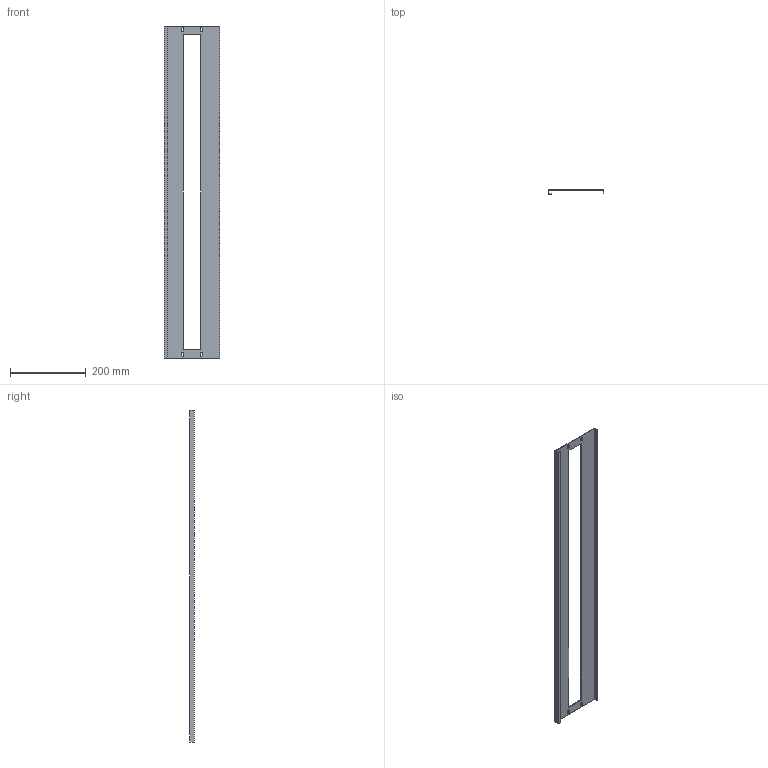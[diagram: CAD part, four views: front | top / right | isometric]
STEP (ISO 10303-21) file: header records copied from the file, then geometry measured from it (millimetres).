
FILE_DESCRIPTION (( 'STEP AP214' ), '1' );
FILE_NAME ('FO-00-PVM-015-100 Ïëàñòðîí äëÿ ìîäóëüíûõ óñòðîéñòâ 150õ1000.STEP', '2025-08-26T07:58:32', ( '' ), ( '' ), 'SwSTEP 2.0', 'SolidWorks 2023', '' );
FILE_SCHEMA (( 'AUTOMOTIVE_DESIGN' ));
Length unit declared in the file: millimetre
Products named in the file (1): FO-00-PVM-015-100 Пластрон для модульных устройств 150х1000
Bounding box: 148 x 12.5 x 879 mm (x, y, z)
Volume: 172278.1 mm3; surface area: 235663.6 mm2
Topology: 1 solids, 1 shells, 46 faces, 132 edges, 88 vertices
Faces by surface type: plane 34, cylinder 12
Entity records: 1543 total; most frequent: CARTESIAN_POINT 267, ORIENTED_EDGE 264, DIRECTION 250, EDGE_CURVE 132, LINE 108, VECTOR 108, VERTEX_POINT 88, AXIS2_PLACEMENT_3D 71
